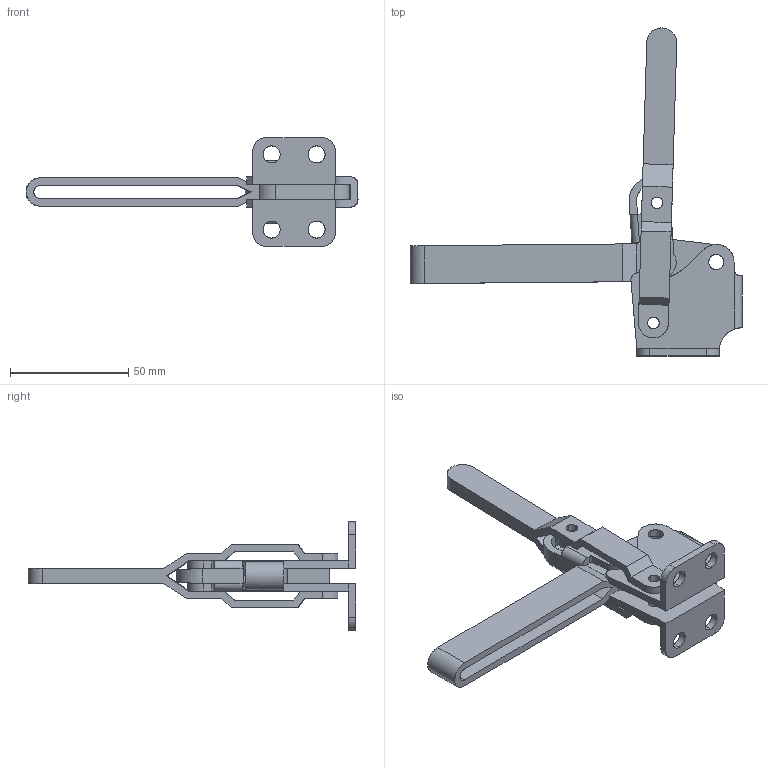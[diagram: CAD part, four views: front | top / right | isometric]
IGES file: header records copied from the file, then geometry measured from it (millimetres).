
Start section: Comment
Global section: file name: 12132.igs; native system:  By Spatial Corp.; preprocessor: XPlus PS/IGES 3.0; author: Author; organization: Title; date: 20050308.152945; units: inch
Bounding box: 140.52 x 138.81 x 46 mm (x, y, z)
Surface area: 30243.6 mm2 (no closed solid volume)
Topology: 0 solids, 0 shells, 185 faces, 1054 edges, 1054 vertices
Faces by surface type: revolution 100, extrusion 85
